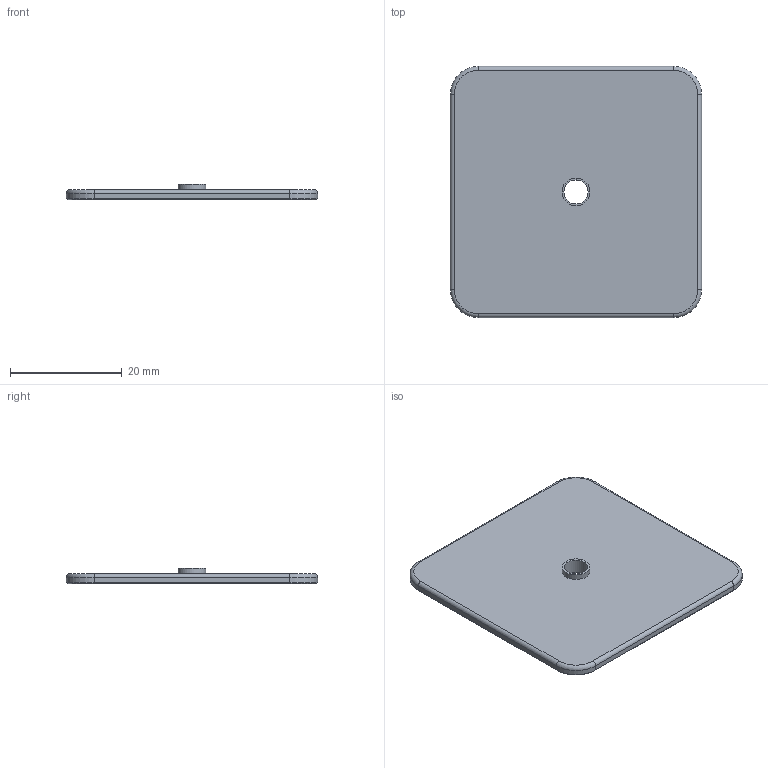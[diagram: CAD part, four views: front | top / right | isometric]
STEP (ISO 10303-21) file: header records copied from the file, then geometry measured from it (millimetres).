
FILE_DESCRIPTION(('Open CASCADE Model'),'2;1');
FILE_NAME('W-SQUARE-WS45','2026-10-19T21:23:52',('Author'),( 'Open CASCADE'),'Open CASCADE STEP processor 8.0','build123d', 'Unknown');
FILE_SCHEMA(('AUTOMOTIVE_DESIGN { 1 0 10303 214 1 1 1 1 }'));
Length unit declared in the file: millimetre
Products named in the file (2): W-SQUARE-WS45; brass_WS45__w
Assembly tree (1 placements, depth 2):
  W-SQUARE-WS45
    brass_WS45__w
Bounding box: 45 x 45 x 2.79 mm (x, y, z)
Volume: 3559 mm3; surface area: 4277.9 mm2
Topology: 1 solids, 1 shells, 33 faces, 68 edges, 40 vertices
Faces by surface type: plane 13, cylinder 12, cone 4, torus 4
Full cylindrical faces by diameter (mm): 2 x2, 4.3 x1, 5 x1
Entity records: 1774 total; most frequent: CARTESIAN_POINT 359, DIRECTION 266, ORIENTED_EDGE 136, PCURVE 136, DEFINITIONAL_REPRESENTATION 136, LINE 124, VECTOR 124, EDGE_CURVE 68
